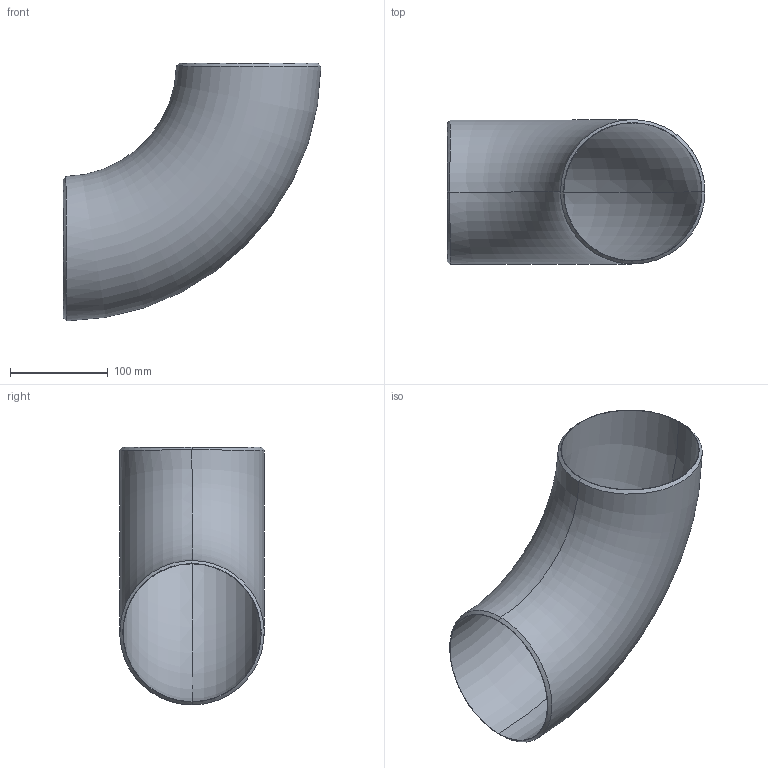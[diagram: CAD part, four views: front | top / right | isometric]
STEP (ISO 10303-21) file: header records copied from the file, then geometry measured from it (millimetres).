
FILE_DESCRIPTION (( 'STEP AP203' ), '1' );
FILE_NAME ('3D_R2651_5X10S_173421220_173425230.STEP', '2024-08-22T09:08:03', ( '' ), ( '' ), 'SwSTEP 2.0', 'SolidWorks 2024', '' );
FILE_SCHEMA (( 'CONFIG_CONTROL_DESIGN' ));
Length unit declared in the file: millimetre
Products named in the file (1): 3D_R2651_5X10S_173421220_173425230
Bounding box: 264.53 x 148.04 x 264.53 mm (x, y, z)
Volume: 452812.5 mm3; surface area: 273056.6 mm2
Topology: 1 solids, 1 shells, 10 faces, 22 edges, 14 vertices
Faces by surface type: bspline 4, torus 4, plane 2
Entity records: 4175 total; most frequent: CARTESIAN_POINT 3903, ORIENTED_EDGE 44, DIRECTION 30, EDGE_CURVE 22, AXIS2_PLACEMENT_3D 15, VERTEX_POINT 14, B_SPLINE_CURVE_WITH_KNOTS 14, EDGE_LOOP 12
